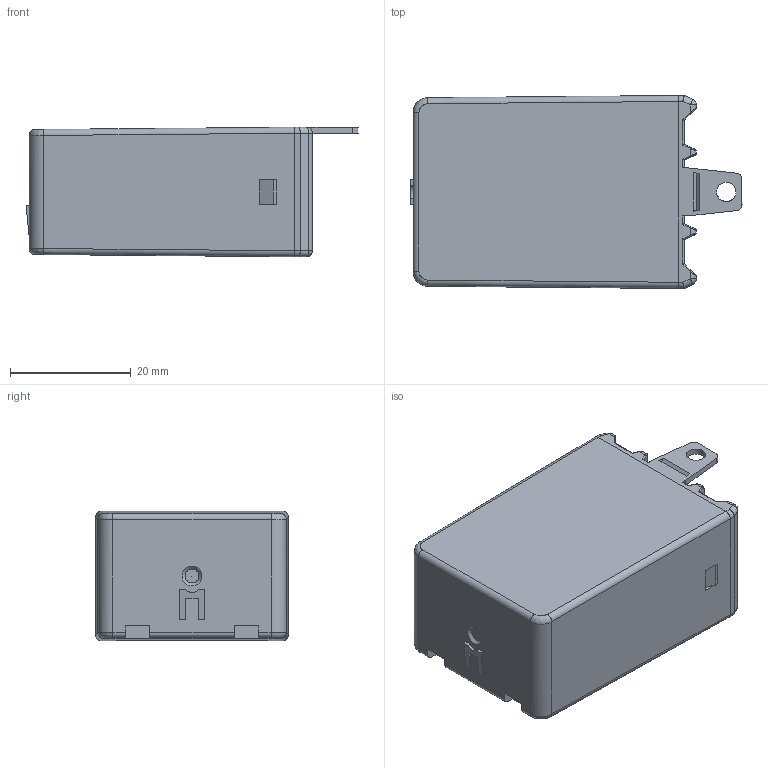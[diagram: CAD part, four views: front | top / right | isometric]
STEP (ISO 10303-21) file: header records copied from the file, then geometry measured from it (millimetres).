
FILE_DESCRIPTION(('STEP AP214'),'2;1');
FILE_NAME('27_05-06 --- skin.stp','2010-06-01T10:17:50',(''),(''),'2007.1.106','THINKDESIGN','');
FILE_SCHEMA(('AUTOMOTIVE_DESIGN'));
Length unit declared in the file: millimetre
Products named in the file (1): None
Bounding box: 55.1 x 32 x 21.5 mm (x, y, z)
Surface area: 8356.1 mm2 (no closed solid volume)
Topology: 0 solids, 0 shells, 539 faces, 3167 edges, 3159 vertices
Faces by surface type: plane 410, cylinder 80, bspline 49
Full cylindrical faces by diameter (mm): 3 x4, 3.2 x1, 4 x4
Entity records: 34503 total; most frequent: CARTESIAN_POINT 12031, DIRECTION 3826, COMPOSITE_CURVE_SEGMENT 3162, TRIMMED_CURVE 2727, VECTOR 2608, LINE 2608, AXIS2_PLACEMENT_3D 609, OUTER_BOUNDARY_CURVE 539
